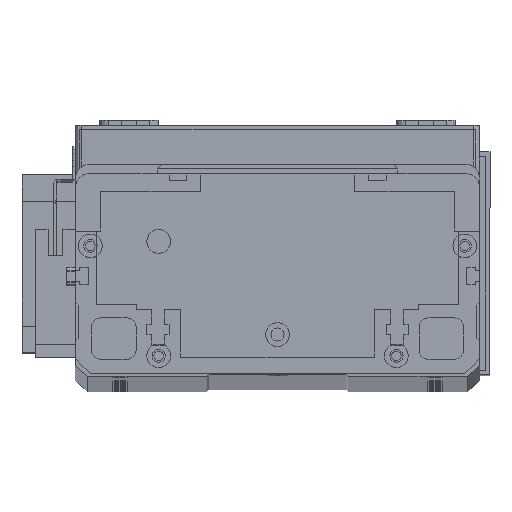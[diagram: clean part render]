
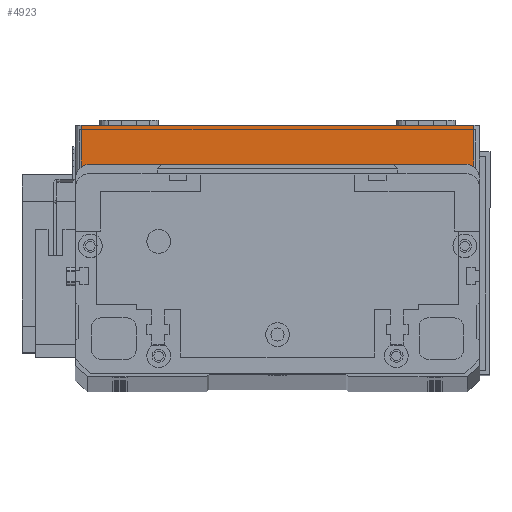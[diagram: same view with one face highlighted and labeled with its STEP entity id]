
A CAD part, top view. The second image highlights one B-rep face of the part: STEP entity #4923.
In plain terms, the highlighted planar face has unit normal (0, 0, 1) as drawn and (0, -1, 0) by its records, which use the part's own axes.
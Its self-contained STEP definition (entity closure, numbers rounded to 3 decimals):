
#340 = CARTESIAN_POINT ( 'NONE',  ( 2., 0., 19.5 ) ) ;
#1638 = VECTOR ( 'NONE', #2313, 1000. ) ;
#1993 = VERTEX_POINT ( 'NONE', #29519 ) ;
#2313 = DIRECTION ( 'NONE',  ( 1., 0., 0. ) ) ;
#2728 = VERTEX_POINT ( 'NONE', #17644 ) ;
#4923 = ADVANCED_FACE ( 'NONE', ( #25063 ), #26225, .F. ) ;
#6460 = EDGE_LOOP ( 'NONE', ( #21333, #11378, #22073, #7675 ) ) ;
#7063 = CARTESIAN_POINT ( 'NONE',  ( 0., 0., 19.5 ) ) ;
#7675 = ORIENTED_EDGE ( 'NONE', *, *, #28461, .T. ) ;
#8474 = LINE ( 'NONE', #15579, #13348 ) ;
#11378 = ORIENTED_EDGE ( 'NONE', *, *, #12247, .T. ) ;
#12247 = EDGE_CURVE ( 'NONE', #1993, #2728, #16201, .T. ) ;
#13348 = VECTOR ( 'NONE', #17969, 1000. ) ;
#14307 = DIRECTION ( 'NONE',  ( 0., 0., 1. ) ) ;
#14386 = CARTESIAN_POINT ( 'NONE',  ( 0., 0., 0. ) ) ;
#14397 = DIRECTION ( 'NONE',  ( 0., 0., 1. ) ) ;
#15579 = CARTESIAN_POINT ( 'NONE',  ( 0., 0., 19.5 ) ) ;
#16201 = LINE ( 'NONE', #340, #28126 ) ;
#16795 = EDGE_CURVE ( 'NONE', #1993, #28268, #8474, .T. ) ;
#17644 = CARTESIAN_POINT ( 'NONE',  ( 2., 0., 0. ) ) ;
#17969 = DIRECTION ( 'NONE',  ( 1., 0., 0. ) ) ;
#18151 = VERTEX_POINT ( 'NONE', #30467 ) ;
#18330 = AXIS2_PLACEMENT_3D ( 'NONE', #7063, #28631, #14307 ) ;
#21333 = ORIENTED_EDGE ( 'NONE', *, *, #16795, .F. ) ;
#22065 = DIRECTION ( 'NONE',  ( 0., 0., -1. ) ) ;
#22073 = ORIENTED_EDGE ( 'NONE', *, *, #26700, .T. ) ;
#24388 = LINE ( 'NONE', #28417, #30695 ) ;
#25063 = FACE_OUTER_BOUND ( 'NONE', #6460, .T. ) ;
#26225 = PLANE ( 'NONE',  #18330 ) ;
#26700 = EDGE_CURVE ( 'NONE', #2728, #18151, #28613, .T. ) ;
#28126 = VECTOR ( 'NONE', #22065, 1000. ) ;
#28268 = VERTEX_POINT ( 'NONE', #30146 ) ;
#28417 = CARTESIAN_POINT ( 'NONE',  ( 134., 0., 19.5 ) ) ;
#28461 = EDGE_CURVE ( 'NONE', #18151, #28268, #24388, .T. ) ;
#28613 = LINE ( 'NONE', #14386, #1638 ) ;
#28631 = DIRECTION ( 'NONE',  ( 0., 1., 0. ) ) ;
#29519 = CARTESIAN_POINT ( 'NONE',  ( 2., 0., 19.5 ) ) ;
#30146 = CARTESIAN_POINT ( 'NONE',  ( 134., 0., 19.5 ) ) ;
#30467 = CARTESIAN_POINT ( 'NONE',  ( 134., 0., 0. ) ) ;
#30695 = VECTOR ( 'NONE', #14397, 1000. ) ;
